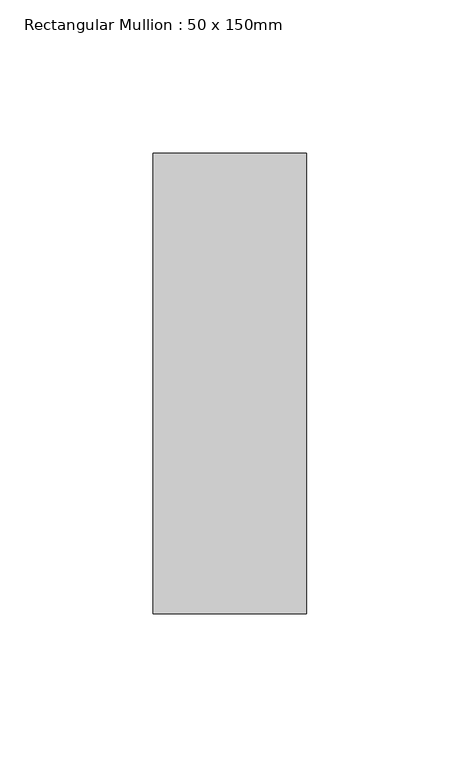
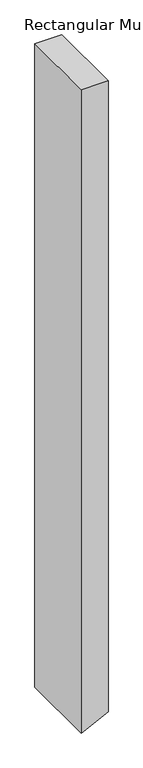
"""IFC4 building model written with IfcOpenShell, lengths in millimetres: member geometry, Rectangular Mullion : 50 x 150mm."""

from ifc_helpers import new_model, si_unit, frame, origin, place, context, project, spatial, circle_curve, source, transform, mapped, element, save
from ifc_brep_helpers import plane_surface, cylinder_surface, advanced_brep


def rectangular_mullion_50_x_150mm_1d3abd5c(model_context):
    return source(origin(), model_context, "Body", "AdvancedBrep", [
        advanced_brep(
        [(25.0, 75.0, 0.0), (-25.0, 75.0, 0.0), (-25.0, -75.0, 0.0), (25.0, -75.0, 0.0), (25.0, 75.0, -1245.3295707), (-21.4791438, 75.0, -1267.9970995), (-25.0, 75.0, -1269.6688692), (-25.0, -75.0, -1269.6688692), (-21.4791438, -75.0, -1267.9970995), (25.0, -75.0, -1245.3295707)],
        [
            (0, 1),
            (1, 2),
            (2, 3),
            (3, 0),
            (0, 4),
            (4, 5, circle_curve(frame((-1164.2156059, 75.0, 1134.1383308), z_axis=(0.0, 1.0, 0.0), x_axis=(0.9082229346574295, 0.0, -0.41848667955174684)), 2660.0942185)),
            (5, 6, circle_curve(frame((-1164.2156059, 75.0, 1134.1383308), z_axis=(0.0, 1.0, 0.0), x_axis=(0.4295849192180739, 0.0, -0.9030264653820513)), 2660.0942185)),
            (6, 1),
            (6, 7),
            (7, 2),
            (7, 8, circle_curve(frame((-1164.2156059, -75.0, 1134.1383308), z_axis=(0.0, -1.0, 0.0), x_axis=(0.4295849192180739, 0.0, -0.9030264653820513)), 2660.0942185)),
            (8, 9, circle_curve(frame((-1164.2156059, -75.0, 1134.1383308), z_axis=(0.0, -1.0, 0.0), x_axis=(0.9082229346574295, 0.0, -0.41848667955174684)), 2660.0942185)),
            (9, 3),
            (9, 4),
            (8, 5),
        ],
        [
            plane_surface(frame((0.0, -79.0569415, 0.0), z_axis=(0.0, 0.0, 1.0), x_axis=(-1.0, 0.0, 0.0))),
            plane_surface(frame((25.0, 75.0, 0.0), z_axis=(0.0, 1.0, 0.0), x_axis=(0.0, 0.0, -1.0))),
            plane_surface(frame((-25.0, 75.0, 0.0), z_axis=(-1.0, 0.0, 0.0), x_axis=(0.0, 0.0, -1.0))),
            plane_surface(frame((-25.0, -75.0, 0.0), z_axis=(0.0, -1.0, 0.0), x_axis=(0.0, 0.0, -1.0))),
            plane_surface(frame((25.0, -75.0, 0.0), z_axis=(1.0, 0.0, 0.0), x_axis=(0.0, 0.0, -1.0))),
            cylinder_surface(frame((-1164.2156059, 0.0, 1134.1383308), z_axis=(0.0, 1.0, 0.0), x_axis=(0.9082229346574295, 0.0, -0.41848667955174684)), 2660.0942185),
            cylinder_surface(frame((-1164.2156059, 0.0, 1134.1383308), z_axis=(0.0, 1.0000000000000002, 0.0), x_axis=(0.4295849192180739, 0.0, -0.9030264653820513)), 2660.0942185),
        ],
        [
            (0, [[1, 2, 3, 4]]),
            (1, [[-1, 5, 6, 7, 8]]),
            (2, [[-2, -8, 9, 10]]),
            (3, [[-3, -10, 11, 12, 13]]),
            (4, [[-4, -13, 14, -5]]),
            (5, [[-14, -12, 15, -6]]),
            (6, [[-11, -9, -7, -15]]),
        ],
    ),
    ])


if __name__ == "__main__":
    model = new_model("IFC4")
    model_context = context("Model", 3, world=origin())
    ifc_project = project(units=[si_unit("LENGTHUNIT", "METRE", prefix="MILLI")], contexts=[model_context])
    site = spatial("IfcSite", under=ifc_project)
    building = spatial("IfcBuilding", under=site)
    placement = place(None, origin())
    rectangular_mullion_50_x_150mm_shape = rectangular_mullion_50_x_150mm_1d3abd5c(model_context)
    element("IfcMember", 1, ObjectType="Rectangular Mullion : 50 x 150mm", at=placement, inside=building, context=model_context, shape_type="MappedRepresentation", body=[
        mapped(rectangular_mullion_50_x_150mm_shape, transform((0.0, 0.0, 0.0), x_axis=(1.0, 0.0, 0.0), y_axis=(0.0, 1.0, 0.0), z_axis=(0.0, 0.0, 1.0))),
    ])
    save(model, "model.ifc")
